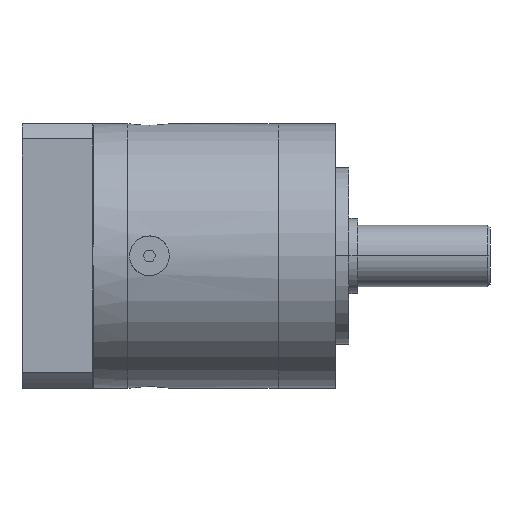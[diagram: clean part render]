
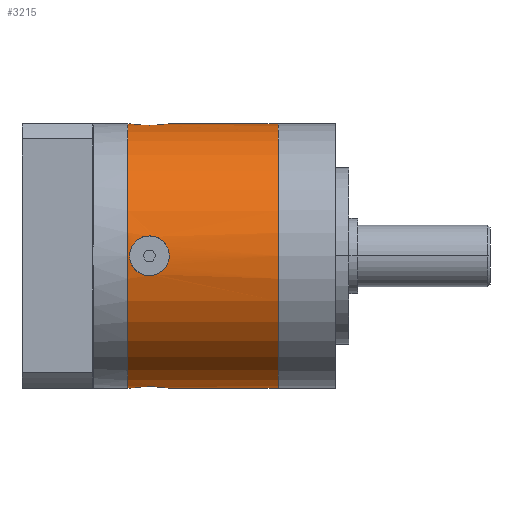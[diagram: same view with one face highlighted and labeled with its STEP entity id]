
A CAD part, top view. The second image highlights one B-rep face of the part: STEP entity #3215.
In plain terms, the highlighted cylindrical face has radius 29.95 mm (diameter 59.9 mm), a partial arc.
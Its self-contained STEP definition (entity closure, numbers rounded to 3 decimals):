
#171=CARTESIAN_POINT('',(58.,0.,0.));
#172=DIRECTION('',(-1.,0.,0.));
#173=DIRECTION('',(0.,-1.,0.));
#174=AXIS2_PLACEMENT_3D('',#171,#172,#173);
#181=CARTESIAN_POINT('',(33.35,0.,29.95));
#182=CARTESIAN_POINT('',(33.35,-0.318,29.95));
#183=CARTESIAN_POINT('',(33.284,-0.939,29.94));
#184=CARTESIAN_POINT('',(32.992,-1.843,29.898));
#185=CARTESIAN_POINT('',(32.517,-2.665,29.835));
#186=CARTESIAN_POINT('',(31.887,-3.365,29.763));
#187=CARTESIAN_POINT('',(31.116,-3.926,29.693));
#188=CARTESIAN_POINT('',(30.256,-4.31,29.639));
#189=CARTESIAN_POINT('',(29.321,-4.509,29.609));
#190=CARTESIAN_POINT('',(28.378,-4.508,29.609));
#191=CARTESIAN_POINT('',(27.442,-4.309,29.639));
#192=CARTESIAN_POINT('',(26.582,-3.925,29.693));
#193=CARTESIAN_POINT('',(25.812,-3.364,29.763));
#194=CARTESIAN_POINT('',(25.182,-2.663,29.835));
#195=CARTESIAN_POINT('',(24.708,-1.842,29.898));
#196=CARTESIAN_POINT('',(24.416,-0.938,29.94));
#197=CARTESIAN_POINT('',(24.35,-0.318,29.95));
#198=CARTESIAN_POINT('',(24.35,0.,29.95));
#200=CARTESIAN_POINT('',(24.35,0.,29.95));
#201=CARTESIAN_POINT('',(24.35,0.318,29.95));
#202=CARTESIAN_POINT('',(24.416,0.939,29.94));
#203=CARTESIAN_POINT('',(24.708,1.843,29.898));
#204=CARTESIAN_POINT('',(25.183,2.665,29.835));
#205=CARTESIAN_POINT('',(25.813,3.365,29.763));
#206=CARTESIAN_POINT('',(26.584,3.926,29.693));
#207=CARTESIAN_POINT('',(27.444,4.31,29.639));
#208=CARTESIAN_POINT('',(28.379,4.509,29.609));
#209=CARTESIAN_POINT('',(29.322,4.508,29.609));
#210=CARTESIAN_POINT('',(30.258,4.309,29.639));
#211=CARTESIAN_POINT('',(31.118,3.925,29.693));
#212=CARTESIAN_POINT('',(31.888,3.364,29.763));
#213=CARTESIAN_POINT('',(32.518,2.663,29.835));
#214=CARTESIAN_POINT('',(32.992,1.842,29.898));
#215=CARTESIAN_POINT('',(33.284,0.938,29.94));
#216=CARTESIAN_POINT('',(33.35,0.318,29.95));
#217=CARTESIAN_POINT('',(33.35,0.,29.95));
#219=CARTESIAN_POINT('',(33.35,29.95,0.));
#220=CARTESIAN_POINT('',(33.35,29.95,0.319));
#221=CARTESIAN_POINT('',(33.284,29.94,0.943));
#222=CARTESIAN_POINT('',(32.989,29.897,1.851));
#223=CARTESIAN_POINT('',(32.51,29.834,2.675));
#224=CARTESIAN_POINT('',(31.875,29.761,3.377));
#225=CARTESIAN_POINT('',(31.098,29.691,3.936));
#226=CARTESIAN_POINT('',(30.232,29.638,4.317));
#227=CARTESIAN_POINT('',(29.293,29.608,4.512));
#228=CARTESIAN_POINT('',(28.343,29.609,4.505));
#229=CARTESIAN_POINT('',(27.403,29.641,4.296));
#230=CARTESIAN_POINT('',(26.549,29.696,3.905));
#231=CARTESIAN_POINT('',(25.791,29.765,3.344));
#232=CARTESIAN_POINT('',(25.171,29.836,2.647));
#233=CARTESIAN_POINT('',(24.702,29.898,1.829));
#234=CARTESIAN_POINT('',(24.415,29.94,0.931));
#235=CARTESIAN_POINT('',(24.35,29.95,0.315));
#236=CARTESIAN_POINT('',(24.35,29.95,0.));
#238=CARTESIAN_POINT('',(24.35,-29.95,0.));
#239=CARTESIAN_POINT('',(24.35,-29.95,0.319));
#240=CARTESIAN_POINT('',(24.416,-29.94,0.942));
#241=CARTESIAN_POINT('',(24.711,-29.897,1.849));
#242=CARTESIAN_POINT('',(25.189,-29.834,2.673));
#243=CARTESIAN_POINT('',(25.823,-29.762,3.375));
#244=CARTESIAN_POINT('',(26.598,-29.692,3.934));
#245=CARTESIAN_POINT('',(27.463,-29.638,4.316));
#246=CARTESIAN_POINT('',(28.402,-29.608,4.511));
#247=CARTESIAN_POINT('',(29.35,-29.609,4.506));
#248=CARTESIAN_POINT('',(30.289,-29.64,4.299));
#249=CARTESIAN_POINT('',(31.145,-29.695,3.909));
#250=CARTESIAN_POINT('',(31.905,-29.765,3.348));
#251=CARTESIAN_POINT('',(32.527,-29.836,2.65));
#252=CARTESIAN_POINT('',(32.997,-29.898,1.831));
#253=CARTESIAN_POINT('',(33.285,-29.94,0.932));
#254=CARTESIAN_POINT('',(33.35,-29.95,0.316));
#255=CARTESIAN_POINT('',(33.35,-29.95,0.));
#257=CARTESIAN_POINT('',(24.,0.,0.));
#258=DIRECTION('',(-1.,0.,0.));
#259=DIRECTION('',(0.,-1.,0.));
#260=AXIS2_PLACEMENT_3D('',#257,#258,#259);
#390=DIRECTION('',(-1.,0.,0.));
#391=VECTOR('',#390,0.35);
#392=CARTESIAN_POINT('',(24.35,-29.95,0.));
#393=LINE('',#392,#391);
#413=DIRECTION('',(-1.,0.,0.));
#414=VECTOR('',#413,24.65);
#415=CARTESIAN_POINT('',(58.,-29.95,0.));
#416=LINE('',#415,#414);
#417=DIRECTION('',(-1.,0.,0.));
#418=VECTOR('',#417,24.65);
#419=CARTESIAN_POINT('',(58.,29.95,0.));
#420=LINE('',#419,#418);
#440=DIRECTION('',(-1.,0.,0.));
#441=VECTOR('',#440,0.35);
#442=CARTESIAN_POINT('',(24.35,29.95,0.));
#443=LINE('',#442,#441);
#2357=VERTEX_POINT('',#238);
#2358=VERTEX_POINT('',#255);
#2387=CARTESIAN_POINT('',(33.35,0.,29.95));
#2388=VERTEX_POINT('',#2387);
#2389=CARTESIAN_POINT('',(24.35,0.,29.95));
#2390=VERTEX_POINT('',#2389);
#2419=CARTESIAN_POINT('',(33.35,29.95,0.));
#2420=VERTEX_POINT('',#2419);
#2421=CARTESIAN_POINT('',(24.35,29.95,0.));
#2422=VERTEX_POINT('',#2421);
#2483=CARTESIAN_POINT('',(58.,-29.95,0.));
#2484=VERTEX_POINT('',#2483);
#2485=CARTESIAN_POINT('',(58.,29.95,0.));
#2486=VERTEX_POINT('',#2485);
#2853=CARTESIAN_POINT('',(24.,-29.95,0.));
#2854=CARTESIAN_POINT('',(24.,29.95,0.));
#2855=VERTEX_POINT('',#2853);
#2856=VERTEX_POINT('',#2854);
#3187=CARTESIAN_POINT('',(59.7,0.,0.));
#3188=DIRECTION('',(-1.,0.,0.));
#3189=DIRECTION('',(0.,-1.,0.));
#3190=AXIS2_PLACEMENT_3D('',#3187,#3188,#3189);
#3191=CYLINDRICAL_SURFACE('',#3190,29.95);
#3193=ORIENTED_EDGE('',*,*,#3192,.F.);
#3195=ORIENTED_EDGE('',*,*,#3194,.F.);
#3197=ORIENTED_EDGE('',*,*,#3196,.F.);
#3198=ORIENTED_EDGE('',*,*,#3180,.F.);
#3200=ORIENTED_EDGE('',*,*,#3199,.T.);
#3202=ORIENTED_EDGE('',*,*,#3201,.F.);
#3204=ORIENTED_EDGE('',*,*,#3203,.T.);
#3206=ORIENTED_EDGE('',*,*,#3205,.T.);
#3207=EDGE_LOOP('',(#3193,#3195,#3197,#3198,#3200,#3202,#3204,#3206));
#3208=FACE_OUTER_BOUND('',#3207,.F.);
#3210=ORIENTED_EDGE('',*,*,#3209,.F.);
#3212=ORIENTED_EDGE('',*,*,#3211,.F.);
#3213=EDGE_LOOP('',(#3210,#3212));
#3214=FACE_BOUND('',#3213,.F.);
#175=CIRCLE('',#174,29.95);
#199=B_SPLINE_CURVE_WITH_KNOTS('',3,(#181,#182,#183,#184,#185,#186,#187,#188,
#189,#190,#191,#192,#193,#194,#195,#196,#197,#198),.UNSPECIFIED.,.F.,.F.,(4,1,1,
1,1,1,1,1,1,1,1,1,1,1,1,4),(0.,0.067,0.133,0.2,
0.267,0.333,0.4,0.467,0.533,
0.6,0.667,0.733,0.8,0.867,
0.933,1.),.UNSPECIFIED.);
#218=B_SPLINE_CURVE_WITH_KNOTS('',3,(#200,#201,#202,#203,#204,#205,#206,#207,
#208,#209,#210,#211,#212,#213,#214,#215,#216,#217),.UNSPECIFIED.,.F.,.F.,(4,1,1,
1,1,1,1,1,1,1,1,1,1,1,1,4),(0.,0.067,0.133,0.2,
0.267,0.333,0.4,0.467,0.533,
0.6,0.667,0.733,0.8,0.867,
0.933,1.),.UNSPECIFIED.);
#237=B_SPLINE_CURVE_WITH_KNOTS('',3,(#219,#220,#221,#222,#223,#224,#225,#226,
#227,#228,#229,#230,#231,#232,#233,#234,#235,#236),.UNSPECIFIED.,.F.,.F.,(4,1,1,
1,1,1,1,1,1,1,1,1,1,1,1,4),(0.,0.067,0.133,0.2,
0.267,0.333,0.4,0.467,0.533,
0.6,0.667,0.733,0.8,0.867,
0.933,1.),.UNSPECIFIED.);
#256=B_SPLINE_CURVE_WITH_KNOTS('',3,(#238,#239,#240,#241,#242,#243,#244,#245,
#246,#247,#248,#249,#250,#251,#252,#253,#254,#255),.UNSPECIFIED.,.F.,.F.,(4,1,1,
1,1,1,1,1,1,1,1,1,1,1,1,4),(0.,0.067,0.133,0.2,
0.267,0.333,0.4,0.467,0.533,
0.6,0.667,0.733,0.8,0.867,
0.933,1.),.UNSPECIFIED.);
#261=CIRCLE('',#260,29.95);
#3180=EDGE_CURVE('',#2484,#2486,#175,.T.);
#3192=EDGE_CURVE('',#2422,#2856,#443,.T.);
#3194=EDGE_CURVE('',#2420,#2422,#237,.T.);
#3196=EDGE_CURVE('',#2486,#2420,#420,.T.);
#3199=EDGE_CURVE('',#2484,#2358,#416,.T.);
#3201=EDGE_CURVE('',#2357,#2358,#256,.T.);
#3203=EDGE_CURVE('',#2357,#2855,#393,.T.);
#3205=EDGE_CURVE('',#2855,#2856,#261,.T.);
#3209=EDGE_CURVE('',#2388,#2390,#199,.T.);
#3211=EDGE_CURVE('',#2390,#2388,#218,.T.);
#3215=ADVANCED_FACE('',(#3208,#3214),#3191,.T.);
